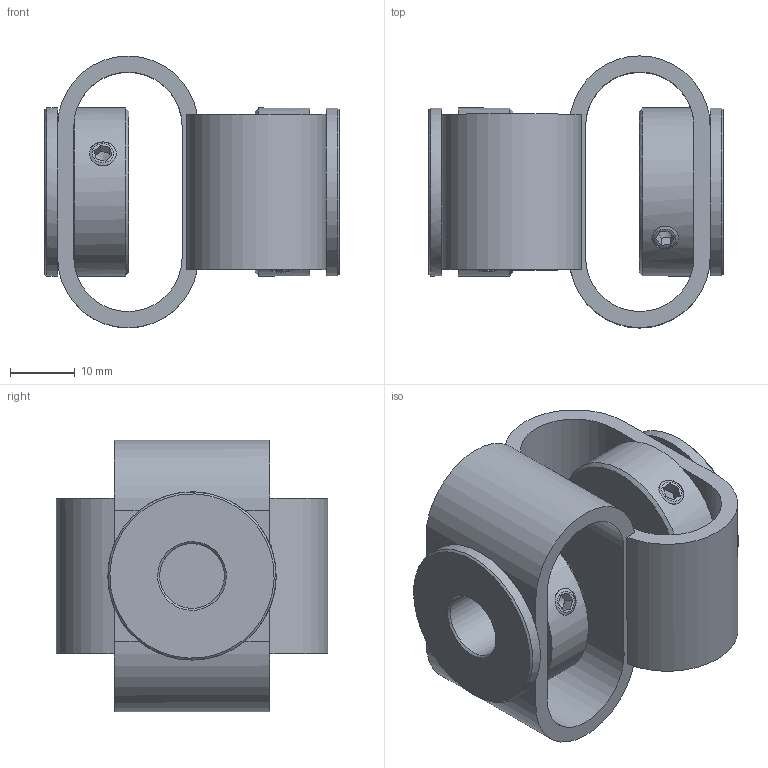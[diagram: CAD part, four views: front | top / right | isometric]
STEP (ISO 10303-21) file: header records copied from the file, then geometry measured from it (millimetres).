
FILE_DESCRIPTION(/* description */ (''),/* implementation_level */ '2;1');
FILE_NAME(/* name */ 'E:\ABP_bauteile\Doppelschlaufenkupplung\DKPS_4848\Doppelschlaufenkupplung_DKPS_4848_08_10.stp',/* time_stamp */ '2015-03-13T14:04:50+01:00',/* author */ ('Rob'),/* organization */ (''),/* preprocessor_version */ 'ST-DEVELOPER v15.6',/* originating_system */ 'Autodesk Inventor 2015',/* authorisation */ '');
FILE_SCHEMA (('CONFIG_CONTROL_DESIGN'));
Length unit declared in the file: millimetre
Products named in the file (1): Bauteil22
Bounding box: 45.55 x 42.03 x 42.03 mm (x, y, z)
Volume: 20019.4 mm3; surface area: 13435.2 mm2
Topology: 1 solids, 2 shells, 134 faces, 314 edges, 190 vertices
Faces by surface type: plane 83, cylinder 27, cone 24
Full cylindrical faces by diameter (mm): 4.134 x8, 8 x1, 10 x1, 16.5 x2, 18 x3, 26 x4
Entity records: 3580 total; most frequent: CARTESIAN_POINT 849, DIRECTION 588, ORIENTED_EDGE 470, EDGE_CURVE 235, AXIS2_PLACEMENT_3D 234, EDGE_LOOP 198, VERTEX_POINT 155, FACE_OUTER_BOUND 134
